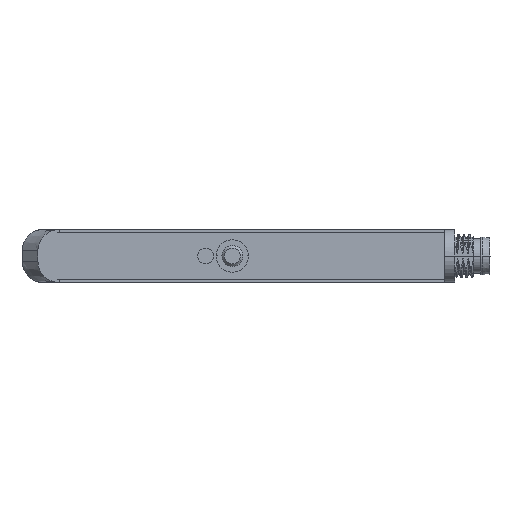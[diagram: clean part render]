
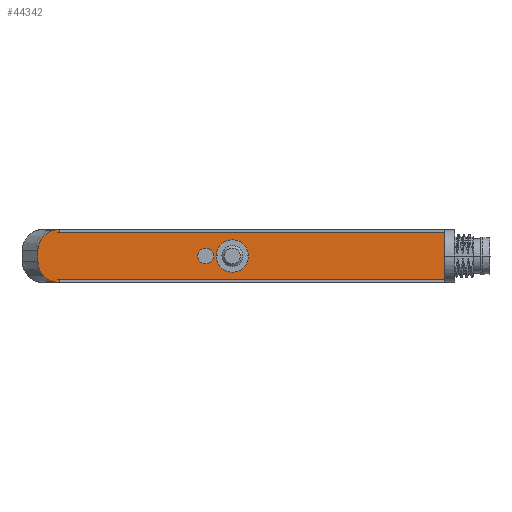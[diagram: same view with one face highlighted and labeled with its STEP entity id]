
A CAD part, left-side view. The second image highlights one B-rep face of the part: STEP entity #44342.
In plain terms, the highlighted planar face has unit normal (-1, 0, 0) as drawn and (0, 0, -1) by its records, which use the part's own axes.
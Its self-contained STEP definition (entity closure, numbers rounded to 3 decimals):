
#43319=CARTESIAN_POINT('',(3.15,-0.175,-0.75));
#43320=VERTEX_POINT('',#43319);
#43328=CARTESIAN_POINT('',(-2.95,-0.175,-0.75));
#43329=VERTEX_POINT('',#43328);
#43336=CARTESIAN_POINT('',(0.1,-0.175,-0.75));
#43337=DIRECTION('',(0.0,0.0,1.0));
#43338=DIRECTION('',(1.0,0.0,0.0));
#43339=AXIS2_PLACEMENT_3D('',#43336,#43337,#43338);
#43340=CIRCLE('',#43339,3.05);
#43341=EDGE_CURVE('',#43320,#43329,#43340,.T.);
#43437=CARTESIAN_POINT('',(3.6,-0.175,-0.75));
#43438=VERTEX_POINT('',#43437);
#43454=CARTESIAN_POINT('',(6.6,-0.175,-0.75));
#43455=VERTEX_POINT('',#43454);
#43462=CARTESIAN_POINT('',(5.1,-0.175,-0.75));
#43463=DIRECTION('',(0.0,0.0,1.0));
#43464=DIRECTION('',(-1.0,0.0,0.0));
#43465=AXIS2_PLACEMENT_3D('',#43462,#43463,#43464);
#43466=CIRCLE('',#43465,1.5);
#43467=EDGE_CURVE('',#43438,#43455,#43466,.T.);
#43479=CARTESIAN_POINT('',(32.7,4.225,-0.75));
#43480=VERTEX_POINT('',#43479);
#43493=CARTESIAN_POINT('',(32.7,4.825,-0.75));
#43494=VERTEX_POINT('',#43493);
#43501=CARTESIAN_POINT('',(32.7,4.225,-0.75));
#43502=DIRECTION('',(0.0,1.0,0.0));
#43503=VECTOR('',#43502,0.6);
#43504=LINE('',#43501,#43503);
#43505=EDGE_CURVE('',#43480,#43494,#43504,.T.);
#43540=CARTESIAN_POINT('',(30.6,4.225,-0.75));
#43541=VERTEX_POINT('',#43540);
#43542=CARTESIAN_POINT('',(30.6,4.225,-0.75));
#43543=DIRECTION('',(1.0,0.0,0.0));
#43544=VECTOR('',#43543,2.1);
#43545=LINE('',#43542,#43544);
#43546=EDGE_CURVE('',#43541,#43480,#43545,.T.);
#43672=CARTESIAN_POINT('',(5.1,-0.175,-0.75));
#43673=DIRECTION('',(0.0,0.0,1.0));
#43674=DIRECTION('',(-1.0,0.0,0.0));
#43675=AXIS2_PLACEMENT_3D('',#43672,#43673,#43674);
#43676=CIRCLE('',#43675,1.5);
#43677=EDGE_CURVE('',#43455,#43438,#43676,.T.);
#43705=CARTESIAN_POINT('',(32.7,-5.175,-0.75));
#43706=VERTEX_POINT('',#43705);
#43724=CARTESIAN_POINT('',(32.7,-4.55,-0.75));
#43725=VERTEX_POINT('',#43724);
#43732=CARTESIAN_POINT('',(32.7,-5.175,-0.75));
#43733=DIRECTION('',(0.0,1.0,0.0));
#43734=VECTOR('',#43733,0.625);
#43735=LINE('',#43732,#43734);
#43736=EDGE_CURVE('',#43706,#43725,#43735,.T.);
#43873=CARTESIAN_POINT('',(36.7,0.825,-0.75));
#43874=VERTEX_POINT('',#43873);
#43875=CARTESIAN_POINT('',(32.7,4.825,-0.75));
#43876=CARTESIAN_POINT('',(33.224,4.825,-0.75));
#43877=CARTESIAN_POINT('',(33.747,4.721,-0.75));
#43878=CARTESIAN_POINT('',(34.714,4.32,-0.75));
#43879=CARTESIAN_POINT('',(35.158,4.024,-0.75));
#43880=CARTESIAN_POINT('',(35.899,3.283,-0.75));
#43881=CARTESIAN_POINT('',(36.195,2.839,-0.75));
#43882=CARTESIAN_POINT('',(36.596,1.872,-0.75));
#43883=CARTESIAN_POINT('',(36.7,1.349,-0.75));
#43884=CARTESIAN_POINT('',(36.7,0.825,-0.75));
#43885=B_SPLINE_CURVE_WITH_KNOTS('',3,(#43875,#43876,#43877,#43878,#43879,#43880,#43881,#43882,#43883,#43884),.UNSPECIFIED.,.F.,.U.,(4,2,2,2,4),(0.0,0.25,0.5,0.75,1.0),.UNSPECIFIED.);
#43886=EDGE_CURVE('',#43494,#43874,#43885,.T.);
#43905=CARTESIAN_POINT('',(36.7,-1.175,-0.75));
#43906=VERTEX_POINT('',#43905);
#43907=CARTESIAN_POINT('',(36.7,0.825,-0.75));
#43908=DIRECTION('',(0.0,-1.0,0.0));
#43909=VECTOR('',#43908,2.);
#43910=LINE('',#43907,#43909);
#43911=EDGE_CURVE('',#43874,#43906,#43910,.T.);
#43966=CARTESIAN_POINT('',(36.7,-1.175,-0.75));
#43967=CARTESIAN_POINT('',(36.7,-1.699,-0.75));
#43968=CARTESIAN_POINT('',(36.596,-2.222,-0.75));
#43969=CARTESIAN_POINT('',(36.195,-3.189,-0.75));
#43970=CARTESIAN_POINT('',(35.899,-3.633,-0.75));
#43971=CARTESIAN_POINT('',(35.158,-4.374,-0.75));
#43972=CARTESIAN_POINT('',(34.714,-4.67,-0.75));
#43973=CARTESIAN_POINT('',(33.747,-5.071,-0.75));
#43974=CARTESIAN_POINT('',(33.224,-5.175,-0.75));
#43975=CARTESIAN_POINT('',(32.7,-5.175,-0.75));
#43976=B_SPLINE_CURVE_WITH_KNOTS('',3,(#43966,#43967,#43968,#43969,#43970,#43971,#43972,#43973,#43974,#43975),.UNSPECIFIED.,.F.,.U.,(4,2,2,2,4),(0.0,0.25,0.5,0.75,1.0),.UNSPECIFIED.);
#43977=EDGE_CURVE('',#43906,#43706,#43976,.T.);
#43992=CARTESIAN_POINT('',(30.6,4.2,-0.75));
#43993=VERTEX_POINT('',#43992);
#43994=CARTESIAN_POINT('',(30.6,4.225,-0.75));
#43995=DIRECTION('',(0.,-1.0,0.0));
#43996=VECTOR('',#43995,0.025);
#43997=LINE('',#43994,#43996);
#43998=EDGE_CURVE('',#43541,#43993,#43997,.T.);
#44039=CARTESIAN_POINT('',(-39.8,-4.55,-0.75));
#44040=VERTEX_POINT('',#44039);
#44047=CARTESIAN_POINT('',(32.7,-4.55,-0.75));
#44048=DIRECTION('',(-1.0,0.0,0.0));
#44049=VECTOR('',#44048,72.5);
#44050=LINE('',#44047,#44049);
#44051=EDGE_CURVE('',#43725,#44040,#44050,.T.);
#44149=CARTESIAN_POINT('',(0.1,-0.175,-0.75));
#44150=DIRECTION('',(0.0,0.0,1.0));
#44151=DIRECTION('',(1.0,0.0,0.0));
#44152=AXIS2_PLACEMENT_3D('',#44149,#44150,#44151);
#44153=CIRCLE('',#44152,3.05);
#44154=EDGE_CURVE('',#43329,#43320,#44153,.T.);
#44282=CARTESIAN_POINT('',(-39.8,4.2,-0.75));
#44283=VERTEX_POINT('',#44282);
#44290=CARTESIAN_POINT('',(-39.8,-4.55,-0.75));
#44291=DIRECTION('',(0.0,1.0,0.0));
#44292=VECTOR('',#44291,8.75);
#44293=LINE('',#44290,#44292);
#44294=EDGE_CURVE('',#44040,#44283,#44293,.T.);
#44306=CARTESIAN_POINT('',(-39.8,4.2,-0.75));
#44307=DIRECTION('',(1.0,0.0,0.0));
#44308=VECTOR('',#44307,70.4);
#44309=LINE('',#44306,#44308);
#44310=EDGE_CURVE('',#44283,#43993,#44309,.T.);
#44317=CARTESIAN_POINT('',(-43.625,-5.675,-0.75));
#44318=DIRECTION('',(0.0,0.0,1.0));
#44319=DIRECTION('',(1.0,0.0,0.0));
#44320=AXIS2_PLACEMENT_3D('',#44317,#44318,#44319);
#44321=PLANE('',#44320);
#44322=ORIENTED_EDGE('',*,*,#43505,.T.);
#44323=ORIENTED_EDGE('',*,*,#43886,.T.);
#44324=ORIENTED_EDGE('',*,*,#43911,.T.);
#44325=ORIENTED_EDGE('',*,*,#43977,.T.);
#44326=ORIENTED_EDGE('',*,*,#43736,.T.);
#44327=ORIENTED_EDGE('',*,*,#44051,.T.);
#44328=ORIENTED_EDGE('',*,*,#44294,.T.);
#44329=ORIENTED_EDGE('',*,*,#44310,.T.);
#44330=ORIENTED_EDGE('',*,*,#43998,.F.);
#44331=ORIENTED_EDGE('',*,*,#43546,.T.);
#44332=EDGE_LOOP('',(#44322,#44323,#44324,#44325,#44326,#44327,#44328,#44329,#44330,#44331));
#44333=FACE_OUTER_BOUND('',#44332,.T.);
#44334=ORIENTED_EDGE('',*,*,#43467,.T.);
#44335=ORIENTED_EDGE('',*,*,#43677,.T.);
#44336=EDGE_LOOP('',(#44334,#44335));
#44337=FACE_BOUND('',#44336,.T.);
#44338=ORIENTED_EDGE('',*,*,#43341,.T.);
#44339=ORIENTED_EDGE('',*,*,#44154,.T.);
#44340=EDGE_LOOP('',(#44338,#44339));
#44341=FACE_BOUND('',#44340,.T.);
#44342=ADVANCED_FACE('',(#44333,#44337,#44341),#44321,.F.);
